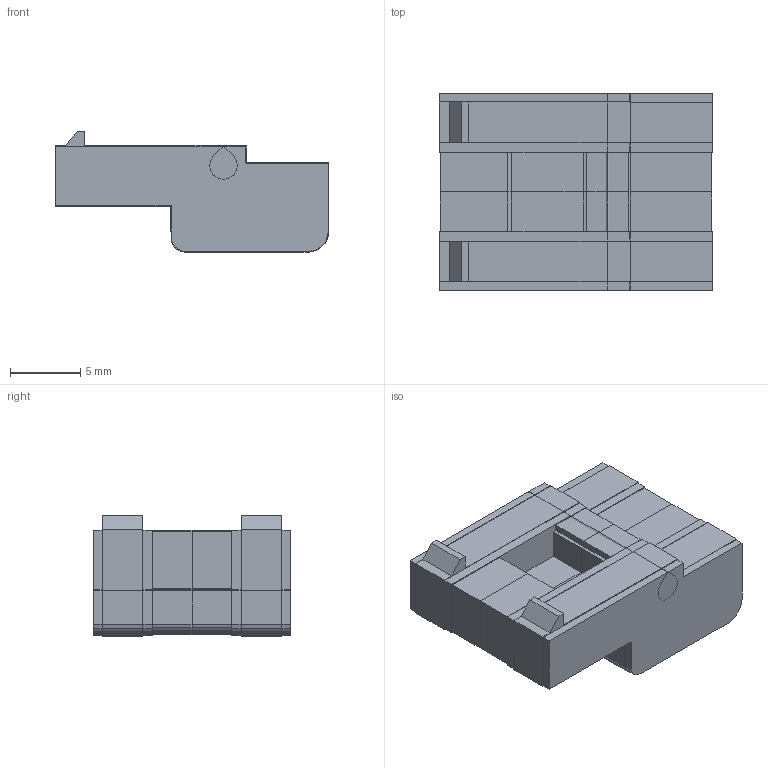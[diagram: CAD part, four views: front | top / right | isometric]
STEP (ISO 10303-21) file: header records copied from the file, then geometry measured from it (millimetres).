
FILE_DESCRIPTION(('AVO Performance Horse - montaje de la cincha (B-rep poliedrico)'),'2;1');
FILE_NAME('AVO_CINCHA_R6_9_balancin_Xpos_PETG','2026-11-15T12:00:00',('AVO Performance Horse'),('AVO Performance Horse'),'avo_cad.py','avo_cad.py (numpy)','');
FILE_SCHEMA(('AUTOMOTIVE_DESIGN { 1 0 10303 214 1 1 1 1 }'));
Length unit declared in the file: millimetre
Products named in the file (1): AVO_CINCHA_R6_9_balancin_Xpos_PETG
Bounding box: 19.5 x 14 x 8.56 mm (x, y, z)
Volume: 1429.1 mm3; surface area: 1131.8 mm2
Topology: 1 solids, 1 shells, 393 faces, 950 edges, 562 vertices
Faces by surface type: plane 393
Entity records: 7957 total; most frequent: ORIENTED_EDGE 1884, VECTOR 942, LINE 942, EDGE_CURVE 942, CARTESIAN_POINT 559, VERTEX_POINT 558, EDGE_LOOP 400, AXIS2_PLACEMENT_3D 393
